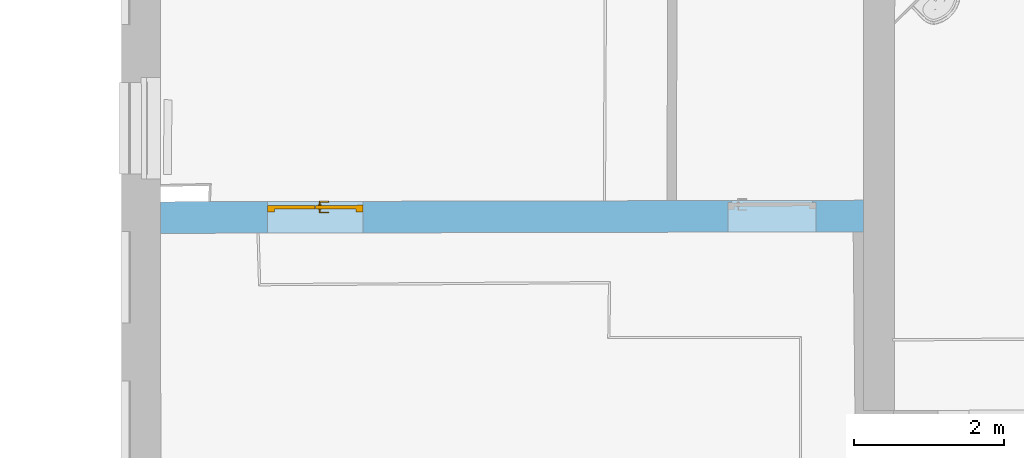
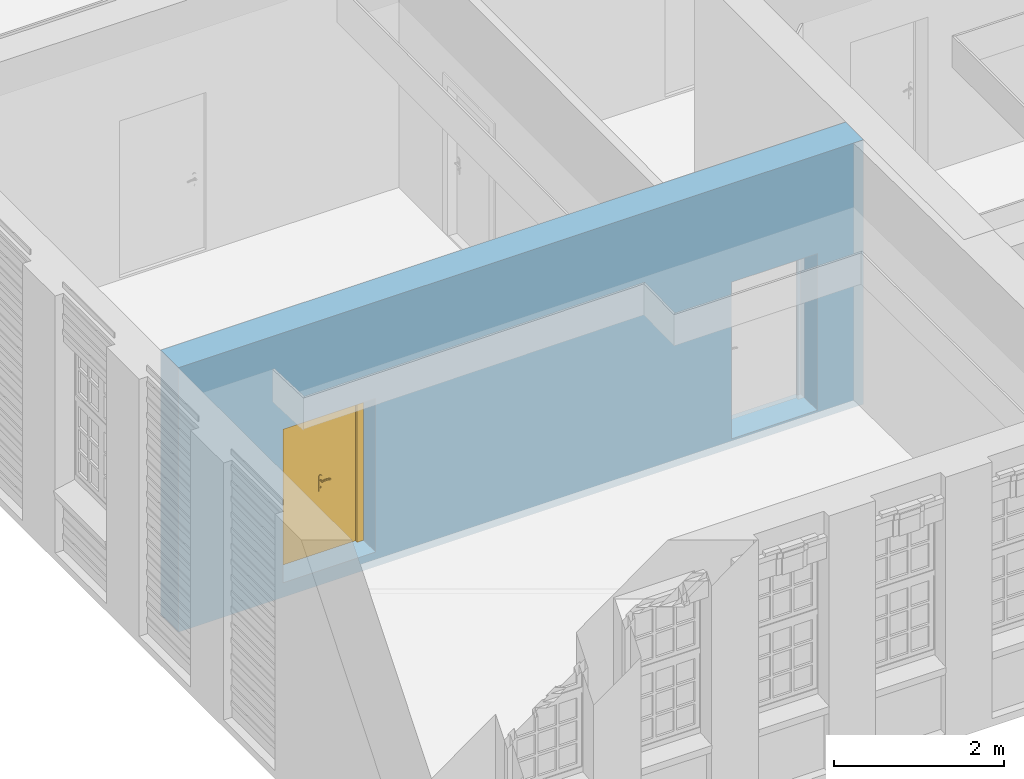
# One storey, part 68 of 158: 1 door, 2 openings, plus 1 element that does not belong to this part.
"""IFC2X3 building model written with IfcOpenShell, lengths in metres."""

from ifc_helpers import new_model, entity, si_unit, converted_unit, derived_unit, money_unit, direction, frame, origin_with_axes, origin_2d_with_axis, place, context, subcontext, project, spatial, polyline, rectangle, outline, extrude, faceted_brep, material, layer, layer_set, layer_usage, type_object, element, fill, save


model = new_model("IFC2X3")

# Units and contexts
model_context = context("Model", 3, precision=1e-05, world=origin_with_axes(), true_north=direction((0.0, 1.0)))
body_context = subcontext(model_context, "Body", "Model", "MODEL_VIEW")
ifc_project = project(units=[si_unit("LENGTHUNIT", "METRE"), si_unit("AREAUNIT", "SQUARE_METRE"), si_unit("VOLUMEUNIT", "CUBIC_METRE"), converted_unit("PLANEANGLEUNIT", "DEGREE", entity("IfcPlaneAngleMeasure", 0.0174532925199), si_unit("PLANEANGLEUNIT", "RADIAN"), dimensions=[0, 0, 0, 0, 0, 0, 0]), money_unit("EUR"), converted_unit("TIMEUNIT", "Year", entity("IfcTimeMeasure", 31556926.0), si_unit("TIMEUNIT", "SECOND"), dimensions=[0, 0, 1, 0, 0, 0, 0]), si_unit("MASSUNIT", "GRAM", prefix="KILO"), si_unit("THERMODYNAMICTEMPERATUREUNIT", "DEGREE_CELSIUS"), si_unit("LUMINOUSINTENSITYUNIT", "LUMEN"), si_unit("ENERGYUNIT", "JOULE", prefix="MEGA"), derived_unit("THERMALCONDUCTANCEUNIT", [(si_unit("POWERUNIT", "WATT"), 1), (si_unit("LENGTHUNIT", "METRE"), -1), (si_unit("THERMODYNAMICTEMPERATUREUNIT", "KELVIN"), -1)]), derived_unit("SPECIFICHEATCAPACITYUNIT", [(si_unit("ENERGYUNIT", "JOULE"), 1), (si_unit("MASSUNIT", "GRAM", prefix="KILO"), -1), (si_unit("THERMODYNAMICTEMPERATUREUNIT", "KELVIN"), -1)]), derived_unit("MASSDENSITYUNIT", [(si_unit("MASSUNIT", "GRAM", prefix="KILO"), 1), (si_unit("VOLUMEUNIT", "CUBIC_METRE"), -1)])], contexts=[model_context])

# Site, building, storey
site_placement = place(None, origin_with_axes())
site = spatial("IfcSite", under=ifc_project, at=site_placement, Name="Gelände", CompositionType="ELEMENT")
building_placement = place(site_placement, origin_with_axes())
building = spatial("IfcBuilding", under=site, at=building_placement, Name="Gebäude", CompositionType="ELEMENT")
storey_placement = place(building_placement, origin_with_axes())
storey = spatial("IfcBuildingStorey", under=building, at=storey_placement, Name="ERDGESCHOSS", CompositionType="ELEMENT", Elevation=0.0)

# Wall, openings, door
ifc_material = material(Name="05_ALLGEMEIN - TRAGENDE BAUTEILE")
ifc_layer = layer(ifc_material, 0.42, ventilated="UNKNOWN")
ifc_layer_set = layer_set([ifc_layer], Name="05_ALLGEMEIN - TRAGENDE BAUTEILE 0.42")
ifc_layer_usage = layer_usage(ifc_layer_set, "AXIS2", "NEGATIVE", 0.42)
wall_type = type_object("IfcWallType", Name="05_ALLGEMEIN - TRAGENDE BAUTEILE 420", PredefinedType="ELEMENTEDWALL")
wall_placement = place(storey_placement, frame((-17.7771544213, 13.195106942, -0.21), z_axis=(0.0, 0.0, 1.0), x_axis=(-0.999997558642, -0.00220968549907, 0.0)))
wall = element("IfcWallStandardCase", 1, at=wall_placement, inside=storey, type_object=wall_type, material=ifc_layer_usage, Name="Wand-036", ObjectType="ELEMENTEDWALL", context=body_context, shape_type="SweptSolid", body=[
    extrude(outline(polyline([(0.414617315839, 0.0), (9.75958256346, 0.0), (9.76011828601, 0.42), (0.41584293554, 0.42), (0.414617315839, 0.0)])), origin_with_axes(), (0.0, 0.0, 1.0), 3.81),
])
opening_1_placement = place(wall_placement, frame((1.63089468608, 0.0, 0.133355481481), z_axis=(0.0, 0.0, 1.0), x_axis=(1.0, 0.0, 0.0)))
element("IfcOpeningElement", 2, at=opening_1_placement, cuts=wall, Name="Tür-023", context=body_context, shape_type="SweptSolid", body=[
    extrude(rectangle(XDim=1.17438939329, YDim=2.257862, at=origin_2d_with_axis()), frame((0.0, 0.0279724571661, 1.128931), z_axis=(0.0, -1.0, 0.0), x_axis=(-1.0, 0.0, 0.0)), (0.0, 0.0, -1.0), 0.812027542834),
    extrude(rectangle(XDim=1.07438939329, YDim=2.207862, at=origin_2d_with_axis()), frame((0.0, 0.0279724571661, 1.103931), z_axis=(0.0, 1.0, 0.0), x_axis=(-1.0, 0.0, 0.0)), (0.0, 0.0, -1.0), 0.447972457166),
])
opening_2_placement = place(wall_placement, frame((7.70327770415, 0.0, 0.210293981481), z_axis=(0.0, 0.0, 1.0), x_axis=(1.0, 0.0, 0.0)))
opening_2 = element("IfcOpeningElement", 3, at=opening_2_placement, cuts=wall, Name="Tür-023", context=body_context, shape_type="SweptSolid", body=[
    extrude(rectangle(XDim=1.26631133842, YDim=2.212845, at=origin_2d_with_axis()), frame((0.0, 0.05, 1.1064225), z_axis=(0.0, -1.0, 0.0), x_axis=(-1.0, 0.0, 0.0)), (0.0, 0.0, -1.0), 0.79),
    extrude(rectangle(XDim=1.26631133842, YDim=2.212845, at=origin_2d_with_axis()), frame((0.0, 0.05, 1.1064225), z_axis=(0.0, 1.0, 0.0), x_axis=(-1.0, 0.0, 0.0)), (0.0, 0.0, -1.0), 0.47),
])
door_style = type_object("IfcDoorStyle", Name="Blockrahmentür 2-Fl 25", ConstructionType="NOTDEFINED", OperationType="DOUBLE_DOOR_SINGLE_SWING", ParameterTakesPrecedence=False, Sizeable=False)
door_placement = place(opening_2_placement, frame((0.543155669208, 0.0, 0.0), z_axis=(0.0, 0.0, 1.0), x_axis=(-1.0, 0.0, 0.0)))
door = element("IfcDoor", 4, at=door_placement, inside=storey, type_object=door_style, Name="Tür-023", ObjectType="NOTDEFINED", OverallHeight=2.21285, OverallWidth=1.26631, context=body_context, shape_type="Brep", body=[
    faceted_brep([(1.17631133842, -0.14, 0.0), (1.17631133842, -0.1, 0.0), (1.17631133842, -0.1, 2.212845), (1.17631133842, -0.14, 2.212845), (1.08631133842, -0.14, 0.0), (1.08631133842, -0.1, 0.0), (1.08631133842, -0.1, 2.122845), (0.655255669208, -0.1, 2.122845), (0.543255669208, -0.1, 2.122845), (0.0, -0.1, 2.122845), (0.0, -0.1, 0.0), (-0.09, -0.1, 0.0), (-0.09, -0.1, 2.212845), (-0.09, -0.14, 2.212845), (-0.09, -0.14, 0.0), (0.0, -0.14, 0.0), (0.0, -0.14, 2.122845), (0.543255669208, -0.14, 2.122845), (0.655255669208, -0.14, 2.122845), (1.08631133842, -0.14, 2.122845)], [[[0, 1, 2, 3]], [[4, 5, 1, 0]], [[1, 5, 6, 7, 8, 9, 10, 11, 12, 2]], [[3, 2, 12, 13]], [[0, 3, 13, 14, 15, 16, 17, 18, 19, 4]], [[19, 6, 5, 4]], [[18, 7, 6, 19]], [[17, 8, 7, 18]], [[16, 9, 8, 17]], [[15, 10, 9, 16]], [[14, 11, 10, 15]], [[13, 12, 11, 14]]]),
    faceted_brep([(1.17631133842, -0.1, 0.0), (1.17631133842, -0.05, 0.0), (1.17631133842, -0.05, 2.212845), (1.17631133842, -0.1, 2.212845), (1.09831133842, -0.1, 0.0), (1.09831133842, -0.05, 0.0), (1.09831133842, -0.05, 2.134845), (0.643255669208, -0.05, 2.134845), (0.555255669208, -0.05, 2.134845), (-0.012, -0.05, 2.134845), (-0.012, -0.05, 0.0), (-0.09, -0.05, 0.0), (-0.09, -0.05, 2.212845), (-0.09, -0.1, 2.212845), (-0.09, -0.1, 0.0), (-0.012, -0.1, 0.0), (-0.012, -0.1, 2.134845), (0.555255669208, -0.1, 2.134845), (0.643255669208, -0.1, 2.134845), (1.09831133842, -0.1, 2.134845)], [[[0, 1, 2, 3]], [[4, 5, 1, 0]], [[1, 5, 6, 7, 8, 9, 10, 11, 12, 2]], [[3, 2, 12, 13]], [[0, 3, 13, 14, 15, 16, 17, 18, 19, 4]], [[19, 6, 5, 4]], [[18, 7, 6, 19]], [[17, 8, 7, 18]], [[16, 9, 8, 17]], [[15, 10, 9, 16]], [[14, 11, 10, 15]], [[13, 12, 11, 14]]]),
    faceted_brep([(1.09831133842, -0.052, 0.0), (0.543655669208, -0.052, 0.0), (0.543655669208, -0.052, 2.134845), (1.09831133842, -0.052, 2.134845), (1.09831133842, -0.1, 0.0), (0.543655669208, -0.1, 0.0), (0.543655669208, -0.1, 2.134845), (1.09831133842, -0.1, 2.134845)], [[[0, 1, 2, 3]], [[1, 0, 4, 5]], [[2, 1, 5, 6]], [[3, 2, 6, 7]], [[0, 3, 7, 4]], [[5, 4, 7, 6]]]),
    faceted_brep([(0.59895338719, -0.14, 1.05647213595), (0.603655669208, -0.14, 1.058), (0.603655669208, -0.12, 1.058), (0.59895338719, -0.12, 1.05647213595), (0.596047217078, -0.14, 1.05247213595), (0.596047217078, -0.14, 1.04752786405), (0.59895338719, -0.14, 1.04352786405), (0.603655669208, -0.14, 1.042), (0.608357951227, -0.14, 1.04352786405), (0.611264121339, -0.14, 1.04752786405), (0.611264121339, -0.14, 1.05247213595), (0.608357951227, -0.14, 1.05647213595), (0.608357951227, -0.12, 1.05647213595), (0.603655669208, -0.118, 1.06), (0.597777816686, -0.118, 1.05809016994), (0.596047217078, -0.12, 1.05247213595), (0.596047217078, -0.12, 1.04752786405), (0.59895338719, -0.12, 1.04352786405), (0.603655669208, -0.12, 1.042), (0.608357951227, -0.12, 1.04352786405), (0.611264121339, -0.12, 1.04752786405), (0.611264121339, -0.12, 1.05247213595), (0.609533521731, -0.118, 1.05809016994), (0.603655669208, -0.11, 1.06), (0.597777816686, -0.11, 1.05809016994), (0.594145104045, -0.118, 1.05309016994), (0.594145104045, -0.118, 1.04690983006), (0.597777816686, -0.118, 1.04190983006), (0.603655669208, -0.118, 1.04), (0.609533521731, -0.118, 1.04190983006), (0.613166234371, -0.118, 1.04690983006), (0.613166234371, -0.118, 1.05309016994), (0.609533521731, -0.11, 1.05809016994), (0.613166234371, -0.11, 1.05309016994), (0.613166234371, -0.11, 1.04690983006), (0.609533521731, -0.11, 1.04190983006), (0.603655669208, -0.11, 1.04), (0.597777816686, -0.11, 1.04190983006), (0.594145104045, -0.11, 1.04690983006), (0.594145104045, -0.11, 1.05309016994)], [[[0, 1, 2, 3]], [[1, 0, 4, 5, 6, 7, 8, 9, 10, 11]], [[1, 11, 12, 2]], [[3, 2, 13, 14]], [[4, 0, 3, 15]], [[5, 4, 15, 16]], [[6, 5, 16, 17]], [[7, 6, 17, 18]], [[8, 7, 18, 19]], [[9, 8, 19, 20]], [[10, 9, 20, 21]], [[11, 10, 21, 12]], [[2, 12, 22, 13]], [[14, 13, 23, 24]], [[15, 3, 14, 25]], [[16, 15, 25, 26]], [[17, 16, 26, 27]], [[18, 17, 27, 28]], [[19, 18, 28, 29]], [[20, 19, 29, 30]], [[21, 20, 30, 31]], [[12, 21, 31, 22]], [[13, 22, 32, 23]], [[23, 32, 33, 34, 35, 36, 37, 38, 39, 24]], [[25, 14, 24, 39]], [[26, 25, 39, 38]], [[27, 26, 38, 37]], [[28, 27, 37, 36]], [[29, 28, 36, 35]], [[30, 29, 35, 34]], [[31, 30, 34, 33]], [[22, 31, 33, 32]]]),
    faceted_brep([(0.615844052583, -0.11, 1.11759695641), (0.608099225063, -0.11, 1.12195567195), (0.599212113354, -0.11, 1.12195567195), (0.591467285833, -0.11, 1.11759695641), (0.586855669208, -0.11, 1.11), (0.581155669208, -0.11, 1.11), (0.581155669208, -0.11, 0.89), (0.586855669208, -0.11, 0.89), (0.591467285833, -0.11, 0.882403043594), (0.599212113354, -0.11, 0.878044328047), (0.608099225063, -0.11, 0.878044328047), (0.615844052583, -0.11, 0.882403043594), (0.620455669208, -0.11, 0.89), (0.626155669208, -0.11, 0.89), (0.626155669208, -0.11, 1.11), (0.620455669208, -0.11, 1.11), (0.603655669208, -0.11, 0.967425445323), (0.609030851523, -0.11, 0.965143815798), (0.611123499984, -0.11, 0.959692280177), (0.608655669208, -0.11, 0.9544), (0.608655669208, -0.11, 0.9375), (0.607191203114, -0.11, 0.933964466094), (0.603655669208, -0.11, 0.9325), (0.600120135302, -0.11, 0.933964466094), (0.598655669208, -0.11, 0.9375), (0.598655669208, -0.11, 0.9544), (0.596187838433, -0.11, 0.959692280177), (0.598280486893, -0.11, 0.965143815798), (0.615844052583, -0.1, 1.11759695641), (0.608099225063, -0.1, 1.12195567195), (0.599212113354, -0.1, 1.12195567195), (0.591467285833, -0.1, 1.11759695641), (0.586855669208, -0.1, 1.11), (0.581155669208, -0.1, 1.11), (0.581155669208, -0.1, 0.89), (0.586855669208, -0.1, 0.89), (0.591467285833, -0.1, 0.882403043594), (0.599212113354, -0.1, 0.878044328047), (0.608099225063, -0.1, 0.878044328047), (0.615844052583, -0.1, 0.882403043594), (0.620455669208, -0.1, 0.89), (0.626155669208, -0.1, 0.89), (0.626155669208, -0.1, 1.11), (0.620455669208, -0.1, 1.11), (0.603655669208, -0.1, 0.967425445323), (0.609030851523, -0.1, 0.965143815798), (0.611123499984, -0.1, 0.959692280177), (0.608655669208, -0.1, 0.9544), (0.608655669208, -0.1, 0.9375), (0.607191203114, -0.1, 0.933964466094), (0.603655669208, -0.1, 0.9325), (0.600120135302, -0.1, 0.933964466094), (0.598655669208, -0.1, 0.9375), (0.598655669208, -0.1, 0.9544), (0.596187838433, -0.1, 0.959692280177), (0.598280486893, -0.1, 0.965143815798)], [[[0, 1, 2, 3, 4, 5, 6, 7, 8, 9, 10, 11, 12, 13, 14, 15], [16, 17, 18, 19, 20, 21, 22, 23, 24, 25, 26, 27]], [[1, 0, 28, 29]], [[2, 1, 29, 30]], [[3, 2, 30, 31]], [[4, 3, 31, 32]], [[5, 4, 32, 33]], [[6, 5, 33, 34]], [[7, 6, 34, 35]], [[8, 7, 35, 36]], [[9, 8, 36, 37]], [[10, 9, 37, 38]], [[11, 10, 38, 39]], [[12, 11, 39, 40]], [[13, 12, 40, 41]], [[14, 13, 41, 42]], [[15, 14, 42, 43]], [[0, 15, 43, 28]], [[17, 16, 44, 45]], [[18, 17, 45, 46]], [[19, 18, 46, 47]], [[19, 47, 48, 20]], [[20, 48, 49, 21]], [[21, 49, 50, 22]], [[22, 50, 51, 23]], [[23, 51, 52, 24]], [[53, 25, 24, 52]], [[26, 25, 53, 54]], [[27, 26, 54, 55]], [[16, 27, 55, 44]], [[40, 39, 38, 37, 36, 35, 34, 33, 32, 31, 30, 29, 28, 43, 42, 41], [54, 53, 52, 51, 50, 49, 48, 47, 46, 45, 44, 55]]]),
    faceted_brep([(0.717908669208, -0.14, 1.057158), (0.717908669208, -0.155, 1.057158), (0.717910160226, -0.155, 1.05719388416), (0.717910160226, -0.14, 1.05719388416), (0.690881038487, -0.14, 1.06432652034), (0.690881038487, -0.155, 1.06432652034), (0.663052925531, -0.155, 1.06706086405), (0.635146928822, -0.155, 1.06529002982), (0.607887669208, -0.155, 1.05906), (0.601485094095, -0.155, 1.05976125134), (0.595983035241, -0.155, 1.05641280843), (0.593664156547, -0.155, 1.05040385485), (0.595490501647, -0.155, 1.04422735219), (0.600704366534, -0.155, 1.04044577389), (0.607142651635, -0.155, 1.04062800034), (0.612134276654, -0.155, 1.04469843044), (0.612113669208, -0.155, 1.044666), (0.637402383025, -0.155, 1.05019878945), (0.663244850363, -0.155, 1.05171460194), (0.689006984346, -0.155, 1.04917624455), (0.714056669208, -0.155, 1.042646), (0.719599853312, -0.155, 1.04356849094), (0.722961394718, -0.155, 1.04807159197), (0.722269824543, -0.155, 1.05364829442), (0.722269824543, -0.14, 1.05364829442), (0.722961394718, -0.14, 1.04807159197), (0.719599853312, -0.14, 1.04356849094), (0.714056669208, -0.14, 1.042646), (0.689006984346, -0.14, 1.04917624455), (0.663244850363, -0.14, 1.05171460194), (0.637402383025, -0.14, 1.05019878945), (0.612113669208, -0.14, 1.044666), (0.612134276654, -0.14, 1.04469843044), (0.607142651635, -0.14, 1.04062800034), (0.600704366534, -0.14, 1.04044577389), (0.595490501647, -0.14, 1.04422735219), (0.593664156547, -0.14, 1.05040385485), (0.595983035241, -0.14, 1.05641280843), (0.601485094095, -0.14, 1.05976125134), (0.607887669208, -0.14, 1.05906), (0.635146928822, -0.14, 1.06529002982), (0.663052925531, -0.14, 1.06706086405)], [[[0, 1, 2, 3]], [[4, 5, 1, 0]], [[1, 5, 6, 7, 8, 9, 10, 11, 12, 13, 14, 15, 16, 17, 18, 19, 20, 21, 22, 23, 2]], [[3, 2, 23, 24]], [[0, 3, 24, 25, 26, 27, 28, 29, 30, 31, 32, 33, 34, 35, 36, 37, 38, 39, 40, 41, 4]], [[41, 6, 5, 4]], [[40, 7, 6, 41]], [[39, 8, 7, 40]], [[38, 9, 8, 39]], [[37, 10, 9, 38]], [[36, 11, 10, 37]], [[35, 12, 11, 36]], [[34, 13, 12, 35]], [[33, 14, 13, 34]], [[32, 15, 14, 33]], [[31, 16, 15, 32]], [[30, 17, 16, 31]], [[29, 18, 17, 30]], [[28, 19, 18, 29]], [[27, 20, 19, 28]], [[26, 21, 20, 27]], [[25, 22, 21, 26]], [[24, 23, 22, 25]]]),
    faceted_brep([(0.59895338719, -0.012, 1.05647213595), (0.59895338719, -0.032, 1.05647213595), (0.603655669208, -0.032, 1.058), (0.603655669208, -0.012, 1.058), (0.596047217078, -0.012, 1.05247213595), (0.596047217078, -0.032, 1.05247213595), (0.597777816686, -0.034, 1.05809016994), (0.603655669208, -0.034, 1.06), (0.608357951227, -0.032, 1.05647213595), (0.608357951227, -0.012, 1.05647213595), (0.611264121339, -0.012, 1.05247213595), (0.611264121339, -0.012, 1.04752786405), (0.608357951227, -0.012, 1.04352786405), (0.603655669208, -0.012, 1.042), (0.59895338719, -0.012, 1.04352786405), (0.596047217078, -0.012, 1.04752786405), (0.596047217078, -0.032, 1.04752786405), (0.594145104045, -0.034, 1.05309016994), (0.597777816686, -0.042, 1.05809016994), (0.603655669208, -0.042, 1.06), (0.609533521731, -0.034, 1.05809016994), (0.611264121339, -0.032, 1.05247213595), (0.611264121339, -0.032, 1.04752786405), (0.608357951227, -0.032, 1.04352786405), (0.603655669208, -0.032, 1.042), (0.59895338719, -0.032, 1.04352786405), (0.594145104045, -0.034, 1.04690983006), (0.594145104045, -0.042, 1.05309016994), (0.594145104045, -0.042, 1.04690983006), (0.597777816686, -0.042, 1.04190983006), (0.603655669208, -0.042, 1.04), (0.609533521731, -0.042, 1.04190983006), (0.613166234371, -0.042, 1.04690983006), (0.613166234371, -0.042, 1.05309016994), (0.609533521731, -0.042, 1.05809016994), (0.613166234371, -0.034, 1.05309016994), (0.613166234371, -0.034, 1.04690983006), (0.609533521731, -0.034, 1.04190983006), (0.603655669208, -0.034, 1.04), (0.597777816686, -0.034, 1.04190983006)], [[[0, 1, 2, 3]], [[4, 5, 1, 0]], [[1, 6, 7, 2]], [[3, 2, 8, 9]], [[3, 9, 10, 11, 12, 13, 14, 15, 4, 0]], [[15, 16, 5, 4]], [[5, 17, 6, 1]], [[6, 18, 19, 7]], [[2, 7, 20, 8]], [[9, 8, 21, 10]], [[10, 21, 22, 11]], [[11, 22, 23, 12]], [[12, 23, 24, 13]], [[13, 24, 25, 14]], [[14, 25, 16, 15]], [[16, 26, 17, 5]], [[17, 27, 18, 6]], [[19, 18, 27, 28, 29, 30, 31, 32, 33, 34]], [[7, 19, 34, 20]], [[8, 20, 35, 21]], [[21, 35, 36, 22]], [[22, 36, 37, 23]], [[23, 37, 38, 24]], [[24, 38, 39, 25]], [[25, 39, 26, 16]], [[26, 28, 27, 17]], [[39, 29, 28, 26]], [[38, 30, 29, 39]], [[37, 31, 30, 38]], [[36, 32, 31, 37]], [[35, 33, 32, 36]], [[20, 34, 33, 35]]]),
    faceted_brep([(0.615844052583, -0.052, 1.11759695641), (0.608099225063, -0.052, 1.12195567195), (0.599212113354, -0.052, 1.12195567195), (0.591467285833, -0.052, 1.11759695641), (0.586855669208, -0.052, 1.11), (0.581155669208, -0.052, 1.11), (0.581155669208, -0.052, 0.89), (0.586855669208, -0.052, 0.89), (0.591467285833, -0.052, 0.882403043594), (0.599212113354, -0.052, 0.878044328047), (0.608099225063, -0.052, 0.878044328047), (0.615844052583, -0.052, 0.882403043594), (0.620455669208, -0.052, 0.89), (0.626155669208, -0.052, 0.89), (0.626155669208, -0.052, 1.11), (0.620455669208, -0.052, 1.11), (0.603655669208, -0.052, 0.967425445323), (0.609030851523, -0.052, 0.965143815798), (0.611123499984, -0.052, 0.959692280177), (0.608655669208, -0.052, 0.9544), (0.608655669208, -0.052, 0.9375), (0.607191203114, -0.052, 0.933964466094), (0.603655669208, -0.052, 0.9325), (0.600120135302, -0.052, 0.933964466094), (0.598655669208, -0.052, 0.9375), (0.598655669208, -0.052, 0.9544), (0.596187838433, -0.052, 0.959692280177), (0.598280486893, -0.052, 0.965143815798), (0.608099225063, -0.042, 1.12195567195), (0.615844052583, -0.042, 1.11759695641), (0.599212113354, -0.042, 1.12195567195), (0.591467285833, -0.042, 1.11759695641), (0.586855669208, -0.042, 1.11), (0.581155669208, -0.042, 1.11), (0.581155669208, -0.042, 0.89), (0.586855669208, -0.042, 0.89), (0.591467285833, -0.042, 0.882403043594), (0.599212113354, -0.042, 0.878044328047), (0.608099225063, -0.042, 0.878044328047), (0.615844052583, -0.042, 0.882403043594), (0.620455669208, -0.042, 0.89), (0.626155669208, -0.042, 0.89), (0.626155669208, -0.042, 1.11), (0.620455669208, -0.042, 1.11), (0.603655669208, -0.042, 0.967425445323), (0.609030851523, -0.042, 0.965143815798), (0.611123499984, -0.042, 0.959692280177), (0.608655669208, -0.042, 0.9544), (0.608655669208, -0.042, 0.9375), (0.607191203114, -0.042, 0.933964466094), (0.603655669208, -0.042, 0.9325), (0.600120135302, -0.042, 0.933964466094), (0.598655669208, -0.042, 0.9375), (0.598655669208, -0.042, 0.9544), (0.596187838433, -0.042, 0.959692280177), (0.598280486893, -0.042, 0.965143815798)], [[[0, 1, 2, 3, 4, 5, 6, 7, 8, 9, 10, 11, 12, 13, 14, 15], [16, 17, 18, 19, 20, 21, 22, 23, 24, 25, 26, 27]], [[28, 1, 0, 29]], [[30, 2, 1, 28]], [[31, 3, 2, 30]], [[32, 4, 3, 31]], [[33, 5, 4, 32]], [[34, 6, 5, 33]], [[35, 7, 6, 34]], [[36, 8, 7, 35]], [[37, 9, 8, 36]], [[38, 10, 9, 37]], [[39, 11, 10, 38]], [[40, 12, 11, 39]], [[41, 13, 12, 40]], [[42, 14, 13, 41]], [[43, 15, 14, 42]], [[29, 0, 15, 43]], [[17, 16, 44, 45]], [[18, 17, 45, 46]], [[19, 18, 46, 47]], [[19, 47, 48, 20]], [[20, 48, 49, 21]], [[21, 49, 50, 22]], [[22, 50, 51, 23]], [[23, 51, 52, 24]], [[53, 25, 24, 52]], [[26, 25, 53, 54]], [[27, 26, 54, 55]], [[16, 27, 55, 44]], [[40, 39, 38, 37, 36, 35, 34, 33, 32, 31, 30, 28, 29, 43, 42, 41], [54, 53, 52, 51, 50, 49, 48, 47, 46, 45, 44, 55]]]),
    faceted_brep([(0.717908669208, -0.012, 1.057158), (0.717910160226, -0.012, 1.05719388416), (0.717910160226, 0.003, 1.05719388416), (0.717908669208, 0.003, 1.057158), (0.690881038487, -0.012, 1.06432652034), (0.663052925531, -0.012, 1.06706086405), (0.635146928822, -0.012, 1.06529002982), (0.607887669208, -0.012, 1.05906), (0.601485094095, -0.012, 1.05976125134), (0.595983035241, -0.012, 1.05641280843), (0.593664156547, -0.012, 1.05040385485), (0.595490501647, -0.012, 1.04422735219), (0.600704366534, -0.012, 1.04044577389), (0.607142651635, -0.012, 1.04062800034), (0.612134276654, -0.012, 1.04469843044), (0.612113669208, -0.012, 1.044666), (0.637402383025, -0.012, 1.05019878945), (0.663244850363, -0.012, 1.05171460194), (0.689006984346, -0.012, 1.04917624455), (0.714056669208, -0.012, 1.042646), (0.719599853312, -0.012, 1.04356849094), (0.722961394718, -0.012, 1.04807159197), (0.722269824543, -0.012, 1.05364829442), (0.722269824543, 0.003, 1.05364829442), (0.722961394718, 0.003, 1.04807159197), (0.719599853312, 0.003, 1.04356849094), (0.714056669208, 0.003, 1.042646), (0.689006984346, 0.003, 1.04917624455), (0.663244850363, 0.003, 1.05171460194), (0.637402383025, 0.003, 1.05019878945), (0.612113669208, 0.003, 1.044666), (0.612134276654, 0.003, 1.04469843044), (0.607142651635, 0.003, 1.04062800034), (0.600704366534, 0.003, 1.04044577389), (0.595490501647, 0.003, 1.04422735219), (0.593664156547, 0.003, 1.05040385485), (0.595983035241, 0.003, 1.05641280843), (0.601485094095, 0.003, 1.05976125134), (0.607887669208, 0.003, 1.05906), (0.635146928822, 0.003, 1.06529002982), (0.663052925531, 0.003, 1.06706086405), (0.690881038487, 0.003, 1.06432652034)], [[[0, 1, 2, 3]], [[0, 4, 5, 6, 7, 8, 9, 10, 11, 12, 13, 14, 15, 16, 17, 18, 19, 20, 21, 22, 1]], [[1, 22, 23, 2]], [[3, 2, 23, 24, 25, 26, 27, 28, 29, 30, 31, 32, 33, 34, 35, 36, 37, 38, 39, 40, 41]], [[4, 0, 3, 41]], [[5, 4, 41, 40]], [[6, 5, 40, 39]], [[7, 6, 39, 38]], [[8, 7, 38, 37]], [[9, 8, 37, 36]], [[10, 9, 36, 35]], [[11, 10, 35, 34]], [[12, 11, 34, 33]], [[13, 12, 33, 32]], [[14, 13, 32, 31]], [[15, 14, 31, 30]], [[16, 15, 30, 29]], [[17, 16, 29, 28]], [[18, 17, 28, 27]], [[19, 18, 27, 26]], [[20, 19, 26, 25]], [[21, 20, 25, 24]], [[22, 21, 24, 23]]]),
    faceted_brep([(-0.012, -0.052, 0.0), (-0.012, -0.052, 2.134845), (0.542655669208, -0.052, 2.134845), (0.542655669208, -0.052, 0.0), (-0.012, -0.1, 0.0), (-0.012, -0.1, 2.134845), (0.542655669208, -0.1, 2.134845), (0.542655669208, -0.1, 0.0)], [[[0, 1, 2, 3]], [[0, 4, 5, 1]], [[1, 5, 6, 2]], [[2, 6, 7, 3]], [[3, 7, 4, 0]], [[7, 6, 5, 4]]]),
])
fill(opening_2, door)

save(model, "model.ifc")
